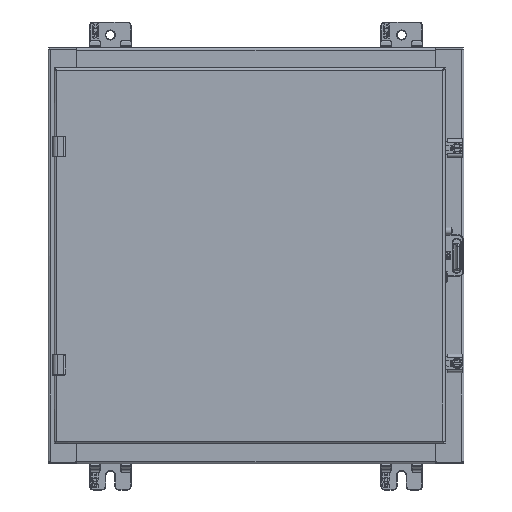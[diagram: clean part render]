
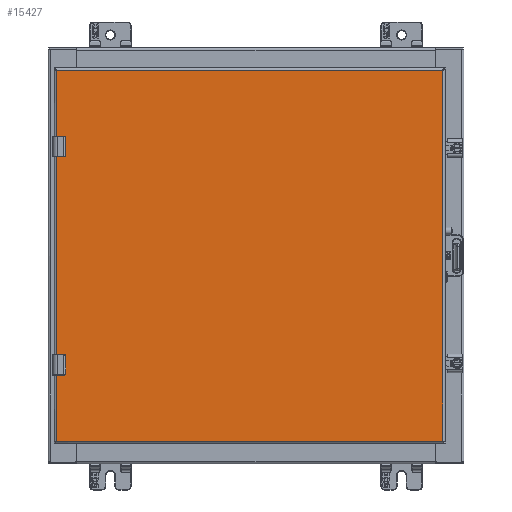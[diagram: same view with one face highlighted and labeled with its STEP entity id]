
A CAD part, top view. The second image highlights one B-rep face of the part: STEP entity #15427.
In plain terms, the highlighted planar face has unit normal (0, 0, 1) as drawn and (0, 1, 0) by its records, which use the part's own axes.
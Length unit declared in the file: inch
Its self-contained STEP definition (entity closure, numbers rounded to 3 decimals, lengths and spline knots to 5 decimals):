
#11838=DIRECTION('',(0.,0.,1.));
#11839=VECTOR('',#11838,18.566);
#11840=CARTESIAN_POINT('',(-8.91438,0.,0.117));
#11841=LINE('',#11840,#11839);
#11930=DIRECTION('',(0.,0.,-1.));
#11931=VECTOR('',#11930,0.3629);
#11932=CARTESIAN_POINT('',(5.59513,0.,18.683));
#11933=LINE('',#11932,#11931);
#11937=DIRECTION('',(-1.,0.,0.));
#11938=VECTOR('',#11937,0.63);
#11939=CARTESIAN_POINT('',(5.56513,0.,18.2901));
#11940=LINE('',#11939,#11938);
#11944=DIRECTION('',(0.,0.,-1.));
#11945=VECTOR('',#11944,0.3629);
#11946=CARTESIAN_POINT('',(4.90513,0.,18.683));
#11947=LINE('',#11946,#11945);
#11951=DIRECTION('',(0.,0.,-1.));
#11952=VECTOR('',#11951,0.3629);
#11953=CARTESIAN_POINT('',(-4.90513,0.,18.683));
#11954=LINE('',#11953,#11952);
#11958=DIRECTION('',(-1.,0.,0.));
#11959=VECTOR('',#11958,0.63);
#11960=CARTESIAN_POINT('',(-4.93513,0.,18.2901));
#11961=LINE('',#11960,#11959);
#11965=DIRECTION('',(0.,0.,-1.));
#11966=VECTOR('',#11965,0.3629);
#11967=CARTESIAN_POINT('',(-5.59513,0.,18.683));
#11968=LINE('',#11967,#11966);
#11972=DIRECTION('',(0.,0.,1.));
#11973=VECTOR('',#11972,18.566);
#11974=CARTESIAN_POINT('',(8.91438,0.,0.117));
#11975=LINE('',#11974,#11973);
#12167=DIRECTION('',(-1.,0.,0.));
#12168=VECTOR('',#12167,17.82875);
#12169=CARTESIAN_POINT('',(8.91438,0.,0.117));
#12170=LINE('',#12169,#12168);
#13029=CARTESIAN_POINT('',(4.93513,0.,18.3201));
#13030=DIRECTION('',(0.,-1.,0.));
#13031=DIRECTION('',(-1.,0.,0.));
#13032=AXIS2_PLACEMENT_3D('',#13029,#13030,#13031);
#13059=CARTESIAN_POINT('',(5.56513,0.,18.3201));
#13060=DIRECTION('',(0.,-1.,0.));
#13061=DIRECTION('',(0.,0.,-1.));
#13062=AXIS2_PLACEMENT_3D('',#13059,#13060,#13061);
#13468=DIRECTION('',(-1.,0.,0.));
#13469=VECTOR('',#13468,9.81025);
#13470=CARTESIAN_POINT('',(4.90513,0.,18.683));
#13471=LINE('',#13470,#13469);
#13516=DIRECTION('',(-1.,0.,0.));
#13517=VECTOR('',#13516,3.31925);
#13518=CARTESIAN_POINT('',(-5.59513,0.,18.683));
#13519=LINE('',#13518,#13517);
#13553=DIRECTION('',(-1.,0.,0.));
#13554=VECTOR('',#13553,3.31925);
#13555=CARTESIAN_POINT('',(8.91438,0.,18.683));
#13556=LINE('',#13555,#13554);
#13634=CARTESIAN_POINT('',(-5.56513,0.,18.3201));
#13635=DIRECTION('',(0.,-1.,0.));
#13636=DIRECTION('',(-1.,0.,0.));
#13637=AXIS2_PLACEMENT_3D('',#13634,#13635,#13636);
#13664=CARTESIAN_POINT('',(-4.93513,0.,18.3201));
#13665=DIRECTION('',(0.,-1.,0.));
#13666=DIRECTION('',(0.,0.,-1.));
#13667=AXIS2_PLACEMENT_3D('',#13664,#13665,#13666);
#14510=CARTESIAN_POINT('',(8.91438,0.,0.117));
#14511=CARTESIAN_POINT('',(-8.91438,0.,0.117));
#14512=VERTEX_POINT('',#14510);
#14513=VERTEX_POINT('',#14511);
#14720=CARTESIAN_POINT('',(-8.91438,0.,18.683));
#14721=VERTEX_POINT('',#14720);
#14730=CARTESIAN_POINT('',(8.91438,0.,18.683));
#14732=VERTEX_POINT('',#14730);
#14827=CARTESIAN_POINT('',(-4.90513,0.,18.683));
#14829=VERTEX_POINT('',#14827);
#14831=CARTESIAN_POINT('',(-5.59513,0.,18.683));
#14833=VERTEX_POINT('',#14831);
#14843=CARTESIAN_POINT('',(5.59513,0.,18.683));
#14845=VERTEX_POINT('',#14843);
#14847=CARTESIAN_POINT('',(4.90513,0.,18.683));
#14849=VERTEX_POINT('',#14847);
#14858=CARTESIAN_POINT('',(-5.59513,0.,18.3201));
#14860=VERTEX_POINT('',#14858);
#14862=CARTESIAN_POINT('',(-5.56513,0.,18.2901));
#14864=VERTEX_POINT('',#14862);
#14882=CARTESIAN_POINT('',(-4.93513,0.,18.2901));
#14884=VERTEX_POINT('',#14882);
#14886=CARTESIAN_POINT('',(-4.90513,0.,18.3201));
#14888=VERTEX_POINT('',#14886);
#14890=CARTESIAN_POINT('',(4.90513,0.,18.3201));
#14892=VERTEX_POINT('',#14890);
#14894=CARTESIAN_POINT('',(4.93513,0.,18.2901));
#14896=VERTEX_POINT('',#14894);
#14914=CARTESIAN_POINT('',(5.56513,0.,18.2901));
#14916=VERTEX_POINT('',#14914);
#14918=CARTESIAN_POINT('',(5.59513,0.,18.3201));
#14920=VERTEX_POINT('',#14918);
#15389=CARTESIAN_POINT('',(9.03138,0.,0.));
#15390=DIRECTION('',(0.,1.,0.));
#15391=DIRECTION('',(-1.,0.,0.));
#15392=AXIS2_PLACEMENT_3D('',#15389,#15390,#15391);
#15393=PLANE('',#15392);
#15395=ORIENTED_EDGE('',*,*,#15394,.T.);
#15397=ORIENTED_EDGE('',*,*,#15396,.T.);
#15399=ORIENTED_EDGE('',*,*,#15398,.T.);
#15401=ORIENTED_EDGE('',*,*,#15400,.F.);
#15403=ORIENTED_EDGE('',*,*,#15402,.T.);
#15405=ORIENTED_EDGE('',*,*,#15404,.F.);
#15407=ORIENTED_EDGE('',*,*,#15406,.F.);
#15409=ORIENTED_EDGE('',*,*,#15408,.T.);
#15411=ORIENTED_EDGE('',*,*,#15410,.T.);
#15413=ORIENTED_EDGE('',*,*,#15412,.F.);
#15415=ORIENTED_EDGE('',*,*,#15414,.T.);
#15417=ORIENTED_EDGE('',*,*,#15416,.F.);
#15419=ORIENTED_EDGE('',*,*,#15418,.F.);
#15421=ORIENTED_EDGE('',*,*,#15420,.T.);
#15422=ORIENTED_EDGE('',*,*,#15379,.F.);
#15424=ORIENTED_EDGE('',*,*,#15423,.F.);
#15425=EDGE_LOOP('',(#15395,#15397,#15399,#15401,#15403,#15405,#15407,#15409,
#15411,#15413,#15415,#15417,#15419,#15421,#15422,#15424));
#15426=FACE_OUTER_BOUND('',#15425,.F.);
#13033=CIRCLE('',#13032,0.03);
#13063=CIRCLE('',#13062,0.03);
#13638=CIRCLE('',#13637,0.03);
#13668=CIRCLE('',#13667,0.03);
#15379=EDGE_CURVE('',#14513,#14721,#11841,.T.);
#15394=EDGE_CURVE('',#14512,#14732,#11975,.T.);
#15396=EDGE_CURVE('',#14732,#14845,#13556,.T.);
#15398=EDGE_CURVE('',#14845,#14920,#11933,.T.);
#15400=EDGE_CURVE('',#14916,#14920,#13063,.T.);
#15402=EDGE_CURVE('',#14916,#14896,#11940,.T.);
#15404=EDGE_CURVE('',#14892,#14896,#13033,.T.);
#15406=EDGE_CURVE('',#14849,#14892,#11947,.T.);
#15408=EDGE_CURVE('',#14849,#14829,#13471,.T.);
#15410=EDGE_CURVE('',#14829,#14888,#11954,.T.);
#15412=EDGE_CURVE('',#14884,#14888,#13668,.T.);
#15414=EDGE_CURVE('',#14884,#14864,#11961,.T.);
#15416=EDGE_CURVE('',#14860,#14864,#13638,.T.);
#15418=EDGE_CURVE('',#14833,#14860,#11968,.T.);
#15420=EDGE_CURVE('',#14833,#14721,#13519,.T.);
#15423=EDGE_CURVE('',#14512,#14513,#12170,.T.);
#15427=ADVANCED_FACE('',(#15426),#15393,.T.);
